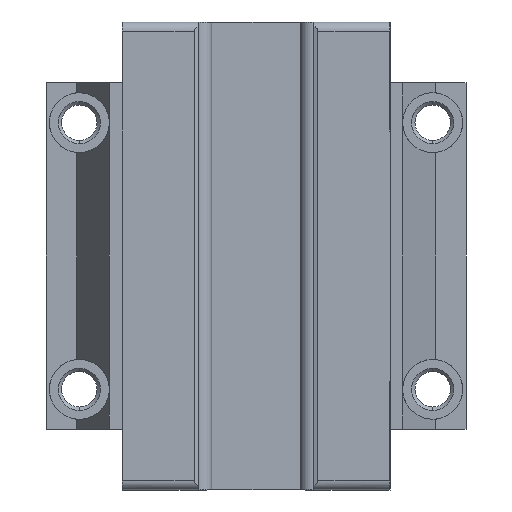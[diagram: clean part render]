
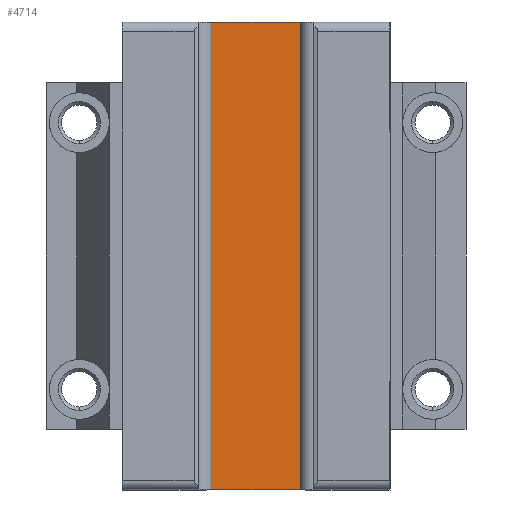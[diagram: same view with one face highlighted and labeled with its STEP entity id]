
A CAD part, front view. The second image highlights one B-rep face of the part: STEP entity #4714.
In plain terms, the highlighted planar face has unit normal (0, -1, 0).
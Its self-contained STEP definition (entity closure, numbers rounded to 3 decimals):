
#1559 = EDGE_CURVE ( 'NONE', #1649, #1560, #6163, .T. ) ;
#1560 = VERTEX_POINT ( 'NONE', #6184 ) ;
#1649 = VERTEX_POINT ( 'NONE', #6354 ) ;
#2619 = DIRECTION ( 'NONE',  ( -1., 0., 0. ) ) ;
#2620 = VECTOR ( 'NONE', #2619, 1000. ) ;
#2621 = CARTESIAN_POINT ( 'NONE',  ( 7.259, -9.695, 35.05 ) ) ;
#2622 = LINE ( 'NONE', #2621, #2620 ) ;
#2623 = CARTESIAN_POINT ( 'NONE',  ( -7.251, -9.695, 35.05 ) ) ;
#2718 = CARTESIAN_POINT ( 'NONE',  ( 7.259, -9.695, 35.05 ) ) ;
#4653 = EDGE_LOOP ( 'NONE', ( #4795, #4720, #4690, #4718 ) ) ;
#4667 = EDGE_CURVE ( 'NONE', #1560, #5081, #7737, .T. ) ;
#4690 = ORIENTED_EDGE ( 'NONE', *, *, #4667, .F. ) ;
#4691 = EDGE_CURVE ( 'NONE', #1649, #5150, #8553, .T. ) ;
#4714 = ADVANCED_FACE ( 'NONE', ( #8573 ), #8558, .F. ) ;
#4718 = ORIENTED_EDGE ( 'NONE', *, *, #1559, .F. ) ;
#4720 = ORIENTED_EDGE ( 'NONE', *, *, #5082, .T. ) ;
#4795 = ORIENTED_EDGE ( 'NONE', *, *, #4691, .T. ) ;
#5081 = VERTEX_POINT ( 'NONE', #2623 ) ;
#5082 = EDGE_CURVE ( 'NONE', #5150, #5081, #2622, .T. ) ;
#5150 = VERTEX_POINT ( 'NONE', #2718 ) ;
#6162 = CARTESIAN_POINT ( 'NONE',  ( -20.1, -9.695, -35.05 ) ) ;
#6163 = LINE ( 'NONE', #6162, #6165 ) ;
#6165 = VECTOR ( 'NONE', #6214, 1000. ) ;
#6184 = CARTESIAN_POINT ( 'NONE',  ( -7.251, -9.695, -35.05 ) ) ;
#6214 = DIRECTION ( 'NONE',  ( -1., 0., 0. ) ) ;
#6354 = CARTESIAN_POINT ( 'NONE',  ( 7.259, -9.695, -35.05 ) ) ;
#7734 = DIRECTION ( 'NONE',  ( 0., 0., 1. ) ) ;
#7735 = VECTOR ( 'NONE', #7734, 1000. ) ;
#7736 = CARTESIAN_POINT ( 'NONE',  ( -7.251, -9.695, -35.1 ) ) ;
#7737 = LINE ( 'NONE', #7736, #7735 ) ;
#8532 = DIRECTION ( 'NONE',  ( 0., 0., 1. ) ) ;
#8553 = LINE ( 'NONE', #8566, #8575 ) ;
#8554 = DIRECTION ( 'NONE',  ( -1., 0., 0. ) ) ;
#8555 = DIRECTION ( 'NONE',  ( 0., 1., 0. ) ) ;
#8556 = CARTESIAN_POINT ( 'NONE',  ( 7.259, -9.695, -35.1 ) ) ;
#8557 = AXIS2_PLACEMENT_3D ( 'NONE', #8556, #8555, #8554 ) ;
#8558 = PLANE ( 'NONE',  #8557 ) ;
#8566 = CARTESIAN_POINT ( 'NONE',  ( 7.259, -9.695, -35.1 ) ) ;
#8573 = FACE_OUTER_BOUND ( 'NONE', #4653, .T. ) ;
#8575 = VECTOR ( 'NONE', #8532, 1000. ) ;
